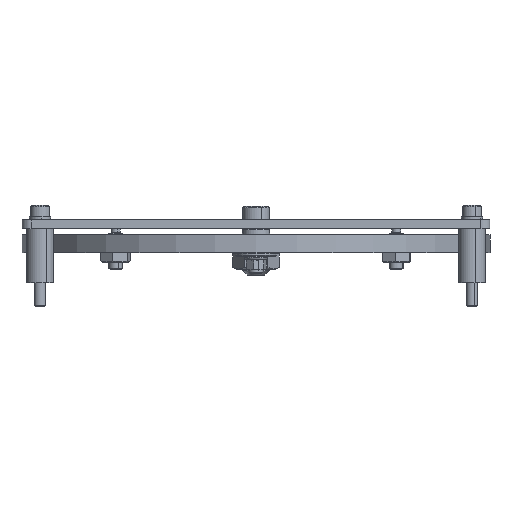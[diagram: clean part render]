
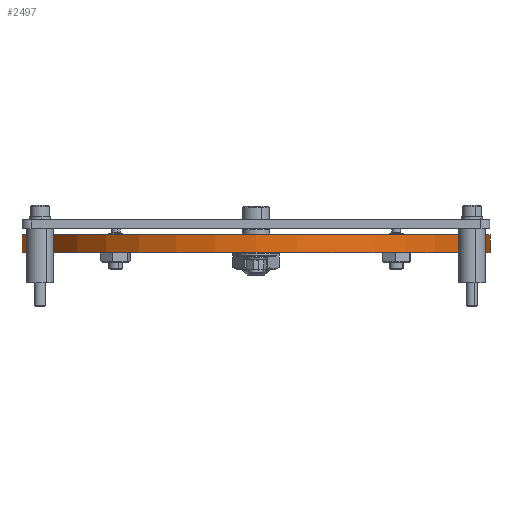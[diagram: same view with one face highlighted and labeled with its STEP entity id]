
A CAD part, front view. The second image highlights one B-rep face of the part: STEP entity #2497.
In plain terms, the highlighted cylindrical face has radius 82.55 mm (diameter 165.1 mm), a partial arc.
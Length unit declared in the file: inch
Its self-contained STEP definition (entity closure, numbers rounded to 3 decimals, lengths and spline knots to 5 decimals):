
#285 = CARTESIAN_POINT ( 'NONE',  ( -0.99494, -2.2331, -1.99075 ) ) ;
#333 = LINE ( 'NONE', #3573, #4554 ) ;
#982 = CARTESIAN_POINT ( 'NONE',  ( -0.99494, -2.2331, -1.74075 ) ) ;
#1299 = CIRCLE ( 'NONE', #18554, 3.25 ) ;
#2497 = ADVANCED_FACE ( 'NONE', ( #7080 ), #15093, .T. ) ;
#2586 = DIRECTION ( 'NONE',  ( 1., 0., 0. ) ) ;
#3573 = CARTESIAN_POINT ( 'NONE',  ( -4.24494, -2.2331, -1.99075 ) ) ;
#3674 = CARTESIAN_POINT ( 'NONE',  ( 2.25506, -2.2331, -1.99075 ) ) ;
#3769 = CIRCLE ( 'NONE', #9234, 3.25 ) ;
#4554 = VECTOR ( 'NONE', #16383, 39.37008 ) ;
#5687 = ORIENTED_EDGE ( 'NONE', *, *, #12817, .T. ) ;
#6452 = DIRECTION ( 'NONE',  ( 0., 0., 1. ) ) ;
#6778 = VECTOR ( 'NONE', #18139, 39.37008 ) ;
#7054 = VERTEX_POINT ( 'NONE', #10325 ) ;
#7080 = FACE_OUTER_BOUND ( 'NONE', #17022, .T. ) ;
#9234 = AXIS2_PLACEMENT_3D ( 'NONE', #982, #12188, #2586 ) ;
#9858 = DIRECTION ( 'NONE',  ( 1., 0., 0. ) ) ;
#9957 = VERTEX_POINT ( 'NONE', #19561 ) ;
#10325 = CARTESIAN_POINT ( 'NONE',  ( -4.24494, -2.2331, -1.99075 ) ) ;
#10899 = CARTESIAN_POINT ( 'NONE',  ( 2.25506, -2.2331, -1.74075 ) ) ;
#11050 = LINE ( 'NONE', #16502, #6778 ) ;
#11474 = EDGE_CURVE ( 'NONE', #7054, #9957, #333, .T. ) ;
#11495 = DIRECTION ( 'NONE',  ( 0., 0., 1. ) ) ;
#12188 = DIRECTION ( 'NONE',  ( 0., 0., 1. ) ) ;
#12817 = EDGE_CURVE ( 'NONE', #7054, #19439, #1299, .T. ) ;
#14402 = EDGE_CURVE ( 'NONE', #9957, #16499, #3769, .T. ) ;
#14792 = EDGE_CURVE ( 'NONE', #19439, #16499, #11050, .T. ) ;
#15093 = CYLINDRICAL_SURFACE ( 'NONE', #16508, 3.25 ) ;
#15603 = ORIENTED_EDGE ( 'NONE', *, *, #11474, .F. ) ;
#16040 = CARTESIAN_POINT ( 'NONE',  ( -0.99494, -2.2331, -1.99075 ) ) ;
#16383 = DIRECTION ( 'NONE',  ( 0., 0., 1. ) ) ;
#16499 = VERTEX_POINT ( 'NONE', #10899 ) ;
#16502 = CARTESIAN_POINT ( 'NONE',  ( 2.25506, -2.2331, -1.99075 ) ) ;
#16508 = AXIS2_PLACEMENT_3D ( 'NONE', #285, #11495, #9858 ) ;
#17022 = EDGE_LOOP ( 'NONE', ( #15603, #5687, #18940, #20403 ) ) ;
#17678 = DIRECTION ( 'NONE',  ( 1., 0., 0. ) ) ;
#18139 = DIRECTION ( 'NONE',  ( 0., 0., 1. ) ) ;
#18554 = AXIS2_PLACEMENT_3D ( 'NONE', #16040, #6452, #17678 ) ;
#18940 = ORIENTED_EDGE ( 'NONE', *, *, #14792, .T. ) ;
#19439 = VERTEX_POINT ( 'NONE', #3674 ) ;
#19561 = CARTESIAN_POINT ( 'NONE',  ( -4.24494, -2.2331, -1.74075 ) ) ;
#20403 = ORIENTED_EDGE ( 'NONE', *, *, #14402, .F. ) ;
